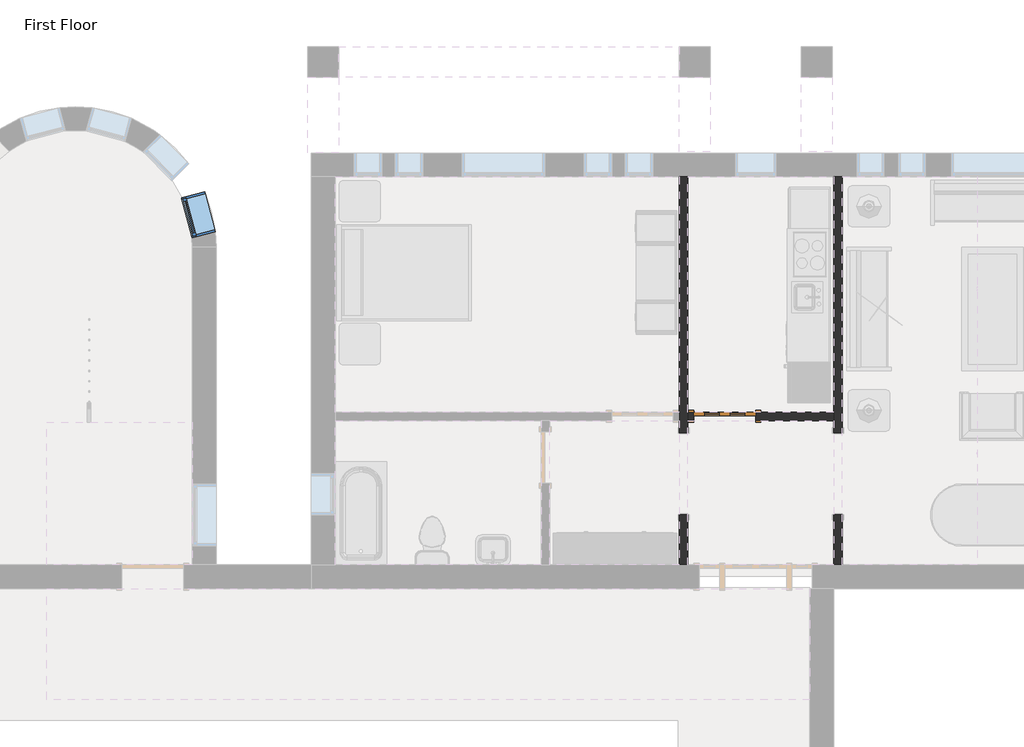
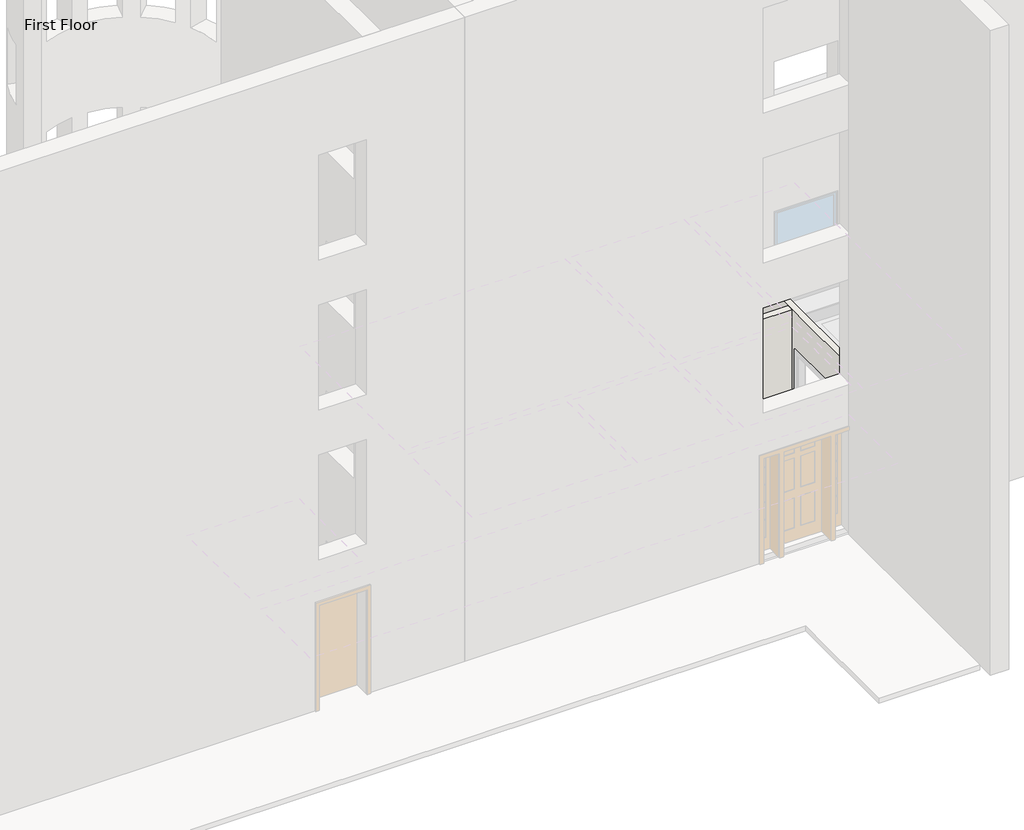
# One storey, part 16 of 23: 3 walls, 1 door, 1 window.
"""IFC4 building model written with IfcOpenShell, lengths in millimetres."""

import ifcopenshell
import ifcopenshell.guid

model = None  # the IFC model being written
_history = None  # IfcOwnerHistory: only IFC2X3 demands one
_inside = {}  # id of a spatial element -> (the spatial element, [elements in it])
_under = {}  # id of a project, library or spatial element -> (it, [spatial elements below it])
_declared = {}  # id of a project -> (the project, [libraries it declares])
_typed = {}  # id of a type object -> (the type object, [elements of that type])
_made_of = {}  # id of a material, layer set ... -> (it, [elements and type objects made of it])


def new_model(schema):
    """Start an empty IFC model of exactly this schema.

    Asked for "IFC4X3", IfcOpenShell would pick the latest addendum, in which some entities
    have other attributes; the version numbers below select the first issue.
    IFC2X3 requires an IfcOwnerHistory on every rooted entity: one is made here for all.
    """
    global model, _history
    if schema == "IFC4X3":
        model = ifcopenshell.file(schema_version=(4, 3, 0, 0))
    else:
        model = ifcopenshell.file(schema=schema)
    _inside.clear()
    _under.clear()
    _declared.clear()
    _typed.clear()
    _made_of.clear()
    _history = None
    if model.schema == "IFC2X3":
        org = make("IfcOrganization", Name="unknown")
        user = make(
            "IfcPersonAndOrganization",
            ThePerson=make("IfcPerson", FamilyName="unknown"),
            TheOrganization=org,
        )
        app = make(
            "IfcApplication",
            ApplicationDeveloper=org,
            Version="unknown",
            ApplicationFullName="unknown",
            ApplicationIdentifier="unknown",
        )
        _history = make(
            "IfcOwnerHistory",
            OwningUser=user,
            OwningApplication=app,
            ChangeAction="ADDED",
            CreationDate=0,
        )
    return model


def make(cls, **values):
    """One entity of the class cls with the attributes given. An attribute that is None is left unset."""
    return model.create_entity(
        cls, **{name: value for name, value in values.items() if value is not None}
    )


def rooted(cls, **values):
    """An entity with a GlobalId (a new one), such as an element, a storey or a relation."""
    return make(cls, GlobalId=ifcopenshell.guid.new(), OwnerHistory=_history, **values)


def si_unit(unit_type, name, prefix=None):
    """IfcSIUnit, for example si_unit("LENGTHUNIT", "METRE", prefix="MILLI")."""
    return make("IfcSIUnit", UnitType=unit_type, Prefix=prefix, Name=name)


def assignment(units):
    """IfcUnitAssignment: the units of a project."""
    return None if units is None else make("IfcUnitAssignment", Units=units)


def point(xyz):
    """IfcCartesianPoint."""
    return None if xyz is None else make("IfcCartesianPoint", Coordinates=xyz)


def direction(xyz):
    """IfcDirection."""
    return None if xyz is None else make("IfcDirection", DirectionRatios=xyz)


def frame(location, z_axis=None, x_axis=None):
    """IfcAxis2Placement3D, a coordinate frame: its origin and axes. An axis left out is left unset."""
    return make(
        "IfcAxis2Placement3D",
        Location=point(location),
        Axis=direction(z_axis),
        RefDirection=direction(x_axis),
    )


def frame_2d(location, x_axis=None):
    """IfcAxis2Placement2D, a coordinate frame in the plane: its origin and x axis."""
    return make(
        "IfcAxis2Placement2D", Location=point(location), RefDirection=direction(x_axis)
    )


def origin():
    """The frame at (0, 0, 0) with its axes left unset."""
    return frame((0.0, 0.0, 0.0))


def place(relative_to, where):
    """IfcLocalPlacement: puts the frame where relative to a parent placement (None: the world)."""
    return make(
        "IfcLocalPlacement", PlacementRelTo=relative_to, RelativePlacement=where
    )


def context(
    kind, dimensions, precision=None, world=None, true_north=None, identifier=None
):
    """IfcGeometricRepresentationContext, for example the 3D "Model" context."""
    return make(
        "IfcGeometricRepresentationContext",
        ContextIdentifier=identifier,
        ContextType=kind,
        CoordinateSpaceDimension=dimensions,
        Precision=precision,
        WorldCoordinateSystem=world,
        TrueNorth=true_north,
    )


def project(units=None, contexts=None):
    """IfcProject with its units and contexts."""
    return rooted(
        "IfcProject",
        Name="project",
        RepresentationContexts=contexts,
        UnitsInContext=assignment(units),
    )


def spatial(cls, under=None, at=None, **own):
    """A site, building, storey or space (cls), placed at a placement, below another one or the project."""
    s = rooted(cls, ObjectPlacement=at, **own)
    if under is not None:
        _under.setdefault(under.id(), (under, []))[1].append(s)
    return s


def polyline(points):
    """IfcPolyline through the points."""
    return make("IfcPolyline", Points=[point(p) for p in points])


def circle_curve(where, radius):
    """IfcCircle in the frame where."""
    return make("IfcCircle", Position=where, Radius=radius)


def trimmed(basis, trim1, trim2, sense, master):
    """IfcTrimmedCurve: the piece of a basis curve between two trims."""
    return make(
        "IfcTrimmedCurve",
        BasisCurve=basis,
        Trim1=trim1,
        Trim2=trim2,
        SenseAgreement=sense,
        MasterRepresentation=master,
    )


def segment(curve, same_sense, transition):
    """IfcCompositeCurveSegment."""
    return make(
        "IfcCompositeCurveSegment",
        Transition=transition,
        SameSense=same_sense,
        ParentCurve=curve,
    )


def composite_curve(segments, self_intersect=None):
    """IfcCompositeCurve: segments joined end to end."""
    return make("IfcCompositeCurve", Segments=segments, SelfIntersect=self_intersect)


def outline(outer, holes=None, kind="AREA"):
    """IfcArbitraryClosedProfileDef: a profile drawn as a closed curve; with holes, ...WithVoids."""
    if holes is None:
        return make("IfcArbitraryClosedProfileDef", ProfileType=kind, OuterCurve=outer)
    return make(
        "IfcArbitraryProfileDefWithVoids",
        ProfileType=kind,
        OuterCurve=outer,
        InnerCurves=holes,
    )


def extrude(swept, where, along, depth):
    """IfcExtrudedAreaSolid: the profile swept, set in the frame where, extruded along a direction by depth."""
    return make(
        "IfcExtrudedAreaSolid",
        SweptArea=swept,
        Position=where,
        ExtrudedDirection=direction(along),
        Depth=depth,
    )


def faces_of(points, faces, orient=None, outer=None):
    """IfcFace entities. A face is a list of loops; a loop is a list of indices into points, from 0.

    orient and outer hold one flag for each loop. By default every Orientation is true, the
    first loop of a face is its IfcFaceOuterBound and the others are IfcFaceBound.
    """
    made = []
    for i, loops in enumerate(faces):
        bounds = []
        for j, loop in enumerate(loops):
            is_outer = j == 0 if outer is None else outer[i][j]
            bounds.append(
                make(
                    "IfcFaceOuterBound" if is_outer else "IfcFaceBound",
                    Bound=make("IfcPolyLoop", Polygon=[points[k] for k in loop]),
                    Orientation=True if orient is None else orient[i][j],
                )
            )
        made.append(make("IfcFace", Bounds=bounds))
    return made


def faceted_brep(points, faces, orient=None, outer=None, voids=None):
    """IfcFacetedBrep: a solid bounded by flat faces; with voids (closed shells), ...WithVoids."""
    shared = [point(p) for p in points]
    hull = make("IfcClosedShell", CfsFaces=faces_of(shared, faces, orient, outer))
    if voids is None:
        return make("IfcFacetedBrep", Outer=hull)
    return make(
        "IfcFacetedBrepWithVoids",
        Outer=hull,
        Voids=[
            make(cls, CfsFaces=faces_of(shared, fs, o, b)) for cls, fs, o, b in voids
        ],
    )


def shape(context_of_items, identifier, shape_type, items):
    """IfcShapeRepresentation: the items that make up one representation, for example the "Body"."""
    return make(
        "IfcShapeRepresentation",
        ContextOfItems=context_of_items,
        RepresentationIdentifier=identifier,
        RepresentationType=shape_type,
        Items=items,
    )


def source(mapping_origin, context_of_items, identifier, shape_type, items):
    """IfcRepresentationMap: a shape defined once, which mapped items show again and again."""
    return make(
        "IfcRepresentationMap",
        MappingOrigin=mapping_origin,
        MappedRepresentation=shape(context_of_items, identifier, shape_type, items),
    )


def transform(
    local_origin,
    x_axis=None,
    y_axis=None,
    z_axis=None,
    scale=None,
    scale2=None,
    scale3=None,
    uniform=True,
):
    """IfcCartesianTransformationOperator3D, or its non-uniform kind. x_axis, y_axis, z_axis: its Axis1, 2, 3."""
    if uniform:
        return make(
            "IfcCartesianTransformationOperator3D",
            Axis1=direction(x_axis),
            Axis2=direction(y_axis),
            LocalOrigin=point(local_origin),
            Scale=scale,
            Axis3=direction(z_axis),
        )
    return make(
        "IfcCartesianTransformationOperator3DnonUniform",
        Axis1=direction(x_axis),
        Axis2=direction(y_axis),
        LocalOrigin=point(local_origin),
        Scale=scale,
        Axis3=direction(z_axis),
        Scale2=scale2,
        Scale3=scale3,
    )


def mapped(mapping_source, mapping_target):
    """IfcMappedItem: shows the shape of a source again, moved by a transform."""
    return make(
        "IfcMappedItem", MappingSource=mapping_source, MappingTarget=mapping_target
    )


def made_of(thing, what):
    """Note that an element or type object is made of a material, layer set ...; save() writes the relation."""
    if what is not None:
        _made_of.setdefault(what.id(), (what, []))[1].append(thing)
    return thing


def element(
    cls,
    number,
    at=None,
    inside=None,
    cuts=None,
    type_object=None,
    material=None,
    context=None,
    identifier="Body",
    shape_type=None,
    held_by="IfcProductDefinitionShape",
    body=None,
    shapes=None,
    **own,
):
    """One element of the class cls, such as IfcWall. Its Tag is "e" and its number.

    at: its placement. inside: the storey or other place that contains it. cuts: it is an
    opening in that element (IfcRelVoidsElement). A single representation is given by context,
    identifier, shape_type and body (its items); several are given by shapes. held_by: the class
    of the entity that holds the representations. save() writes the other relations.
    """
    e = rooted(cls, Tag="e%d" % number, ObjectPlacement=at, **own)
    if body is not None:
        shapes = [shape(context, identifier, shape_type, body)]
    if shapes is not None:
        e.Representation = make(held_by, Representations=shapes)
    if inside is not None:
        _inside.setdefault(inside.id(), (inside, []))[1].append(e)
    if cuts is not None:
        rooted(
            "IfcRelVoidsElement", RelatingBuildingElement=cuts, RelatedOpeningElement=e
        )
    if type_object is not None:
        _typed.setdefault(type_object.id(), (type_object, []))[1].append(e)
    return made_of(e, material)


def aggregate(whole, parts):
    """IfcRelAggregates: a whole, such as a stair, and the parts it consists of."""
    return rooted("IfcRelAggregates", RelatingObject=whole, RelatedObjects=parts)


def save(model, path):
    """Write the relations noted so far, then the file.

    IfcRelAggregates (storeys below a building ...), IfcRelContainedInSpatialStructure (elements
    in a storey), IfcRelDefinesByType, IfcRelAssociatesMaterial and IfcRelDeclares: one each for
    every whole, place, type object, material and project.
    """
    for whole, parts in _under.values():
        aggregate(whole, parts)
    for where, things in _inside.values():
        rooted(
            "IfcRelContainedInSpatialStructure",
            RelatedElements=things,
            RelatingStructure=where,
        )
    for kind, things in _typed.values():
        rooted("IfcRelDefinesByType", RelatedObjects=things, RelatingType=kind)
    for what, things in _made_of.values():
        rooted("IfcRelAssociatesMaterial", RelatedObjects=things, RelatingMaterial=what)
    for by, libraries in _declared.values():
        rooted("IfcRelDeclares", RelatingContext=by, RelatedDefinitions=libraries)
    model.write(path)


def door_829da954(model_context):
    return source(origin(), model_context, "Body", "SweptSolid", [
        extrude(outline(polyline([(0.0, -457.2), (0.0, 457.2), (2133.6, 457.2), (2133.6, -457.2), (0.0, -457.2)]), holes=[polyline([(254.0, -76.2), (254.0, -304.8), (1219.2, -304.8), (1219.2, -76.2), (254.0, -76.2)]), polyline([(254.0, 304.8), (254.0, 76.2), (1219.2, 76.2), (1219.2, 304.8), (254.0, 304.8)]), polyline([(1371.6, 76.2), (1574.8, 76.2), (1574.8, 304.8), (1371.6, 304.8), (1371.6, 76.2)]), polyline([(1371.6, -304.8), (1574.8, -304.8), (1574.8, -76.2), (1371.6, -76.2), (1371.6, -304.8)]), composite_curve([segment(polyline([(1727.2, 304.8), (1727.2, -304.8)]), True, "CONTINUOUS"), segment(trimmed(circle_curve(frame_2d((1727.2, 0.0)), 304.8), [point((1727.2, -304.8))], [point((1727.2, 304.8))], True, "CARTESIAN"), True, "CONTINUOUS")], self_intersect=False)]), frame((0.0, -63.5, 0.0), z_axis=(0.0, 1.0, 0.0), x_axis=(0.0, 0.0, 1.0)), (0.0, 0.0, 1.0), 50.8),
        extrude(outline(polyline([(0.0, 457.2), (0.0, 533.4), (2209.8, 533.4), (2209.8, -533.4), (0.0, -533.4), (0.0, -457.2), (2133.6, -457.2), (2133.6, 457.2), (0.0, 457.2)])), frame((0.0, 63.5, 0.0), z_axis=(0.0, 1.0, 0.0), x_axis=(0.0, 0.0, 1.0)), (0.0, 0.0, 1.0), 25.4),
        extrude(outline(polyline([(2209.8, -533.4), (0.0, -533.4), (0.0, -457.2), (2133.6, -457.2), (2133.6, 457.2), (0.0, 457.2), (0.0, 533.4), (2209.8, 533.4), (2209.8, -533.4)])), frame((0.0, -88.9, 0.0), z_axis=(0.0, 1.0, 0.0), x_axis=(0.0, 0.0, 1.0)), (0.0, 0.0, 1.0), 25.4),
        extrude(outline(composite_curve([segment(polyline([(1727.2, -304.8), (1727.2, 304.8)]), True, "CONTINUOUS"), segment(trimmed(circle_curve(frame_2d((1727.2, 0.0)), 304.8), [point((1727.2, 304.8))], [point((1727.2, -304.8))], False, "CARTESIAN"), True, "CONTINUOUS")], self_intersect=False)), frame((0.0, -46.5666667, 0.0), z_axis=(0.0, 1.0, 0.0), x_axis=(0.0, 0.0, 1.0)), (0.0, 0.0, 1.0), 16.9333333),
        extrude(outline(polyline([(-304.8, -46.5666667), (-304.8, -29.6333333), (-76.2, -29.6333333), (-76.2, -46.5666667), (-304.8, -46.5666667)])), frame((0.0, 0.0, 254.0), z_axis=(0.0, 0.0, 1.0), x_axis=(1.0, 0.0, 0.0)), (0.0, 0.0, 1.0), 965.2),
        extrude(outline(polyline([(76.2, -46.5666667), (76.2, -29.6333333), (304.8, -29.6333333), (304.8, -46.5666667), (76.2, -46.5666667)])), frame((0.0, 0.0, 254.0), z_axis=(0.0, 0.0, 1.0), x_axis=(1.0, 0.0, 0.0)), (0.0, 0.0, 1.0), 965.2),
        extrude(outline(polyline([(76.2, -46.5666667), (76.2, -29.6333333), (304.8, -29.6333333), (304.8, -46.5666667), (76.2, -46.5666667)])), frame((0.0, 0.0, 1371.6), z_axis=(0.0, 0.0, 1.0), x_axis=(1.0, 0.0, 0.0)), (0.0, 0.0, 1.0), 203.2),
        extrude(outline(polyline([(-304.8, -46.5666667), (-304.8, -29.6333333), (-76.2, -29.6333333), (-76.2, -46.5666667), (-304.8, -46.5666667)])), frame((0.0, 0.0, 1371.6), z_axis=(0.0, 0.0, 1.0), x_axis=(1.0, 0.0, 0.0)), (0.0, 0.0, 1.0), 203.2),
    ])


def window_60baf983(model_context):
    return source(origin(), model_context, "Body", "SweptSolid", [
        extrude(outline(polyline([(203.2, 128.5875), (-279.4, 128.5875), (-279.4, 141.2875), (203.2, 141.2875), (203.2, 128.5875)])), frame((0.0, 0.0, 977.9), z_axis=(0.0, 0.0, 1.0), x_axis=(1.0, 0.0, 0.0)), (0.0, 0.0, 1.0), 1092.2),
        extrude(outline(polyline([(2114.55, -323.85), (933.45, -323.85), (933.45, 247.65), (2114.55, 247.65), (2114.55, -323.85)]), holes=[polyline([(2070.1, -279.4), (2070.1, 203.2), (977.9, 203.2), (977.9, -279.4), (2070.1, -279.4)])]), frame((0.0, 112.7125, 0.0), z_axis=(0.0, 1.0, 0.0), x_axis=(0.0, 0.0, 1.0)), (0.0, 0.0, 1.0), 44.45),
        extrude(outline(polyline([(2133.6, -342.9), (914.4, -342.9), (914.4, 266.7), (2133.6, 266.7), (2133.6, -342.9)]), holes=[polyline([(2101.85, -311.15), (2101.85, 234.95), (946.15, 234.95), (946.15, -311.15), (2101.85, -311.15)])]), frame((0.0, -176.2125, 0.0), z_axis=(0.0, 1.0, 0.0), x_axis=(0.0, 0.0, 1.0)), (0.0, 0.0, 1.0), 288.925),
        extrude(outline(polyline([(2133.6, 266.7), (2133.6, -342.9), (914.4, -342.9), (914.4, 266.7), (2133.6, 266.7)]), holes=[polyline([(2114.55, 247.65), (933.45, 247.65), (933.45, -323.85), (2114.55, -323.85), (2114.55, 247.65)])]), frame((0.0, 112.7125, 0.0), z_axis=(0.0, 1.0, 0.0), x_axis=(0.0, 0.0, 1.0)), (0.0, 0.0, 1.0), 63.5),
    ])


model = new_model("IFC4")

# Units and contexts
model_context = context("Model", 3, world=origin())
ifc_project = project(units=[si_unit("LENGTHUNIT", "METRE", prefix="MILLI")], contexts=[model_context])

# Site, building, storey
site = spatial("IfcSite", under=ifc_project)
building = spatial("IfcBuilding", under=site)
storey = spatial("IfcBuildingStorey", under=building, Name="First Floor", Elevation=0.0)

# Door
placement = place(None, origin())
door_shape = door_829da954(model_context)
element("IfcDoor", 1, ObjectType="Single-Decorative 2 : 36\" x 84\"", at=placement, inside=storey, context=model_context, shape_type="MappedRepresentation", body=[
    mapped(door_shape, transform((-5449.8589563, 6723.5441867, 0.0), x_axis=(-1.0, 0.0, 0.0), y_axis=(0.0, -1.0, 0.0), z_axis=(0.0, 0.0, 1.0))),
])

# Walls
element("IfcWall", 2, ObjectType="Interior - 5\" Partition (2-hr)", at=placement, inside=storey, context=model_context, shape_type="Brep", body=[
    faceted_brep([(-3836.9589563, 10270.0191867, 0.0), (-3836.9589563, 6787.0441867, 0.0), (-3836.9589563, 6660.0441867, 0.0), (-3836.9589563, 6483.8316867, 0.0), (-3836.9589563, 6483.8316867, 2133.6), (-3836.9589563, 5264.6316867, 2133.6), (-3836.9589563, 5264.6316867, 0.0), (-3836.9589563, 4526.4441867, 0.0), (-3836.9589563, 4526.4441867, 2943.225), (-3836.9589563, 6660.0441867, 2943.225), (-3836.9589563, 6787.0441867, 2943.225), (-3836.9589563, 10270.0191867, 2943.225), (-3709.9589563, 6483.8316867, 2133.6), (-3709.9589563, 6483.8316867, 0.0), (-3709.9589563, 10270.0191867, 0.0), (-3709.9589563, 10270.0191867, 2943.225), (-3709.9589563, 4526.4441867, 2943.225), (-3709.9589563, 4526.4441867, 0.0), (-3709.9589563, 5264.6316867, 0.0), (-3709.9589563, 5264.6316867, 2133.6)], [[[0, 1, 2, 3, 4, 5, 6, 7, 8, 9, 10, 11]], [[12, 13, 14, 15, 16, 17, 18, 19]], [[14, 13, 3, 2, 1, 0]], [[18, 17, 7, 6]], [[11, 10, 9, 8, 16, 15]], [[0, 11, 15, 14]], [[8, 7, 17, 16]], [[6, 5, 19, 18]], [[4, 3, 13, 12]], [[5, 4, 12, 19]]]),
])
element("IfcWall", 3, ObjectType="Interior - 5\" Partition (2-hr)", at=placement, inside=storey, context=model_context, shape_type="Brep", body=[
    faceted_brep([(-6122.9589563, 5264.6316867, 2133.6), (-6122.9589563, 5264.6316867, 0.0), (-6122.9589563, 4526.4441867, 0.0), (-6122.9589563, 4526.4441867, 2943.225), (-6122.9589563, 6660.0441867, 2943.225), (-6122.9589563, 6787.0441867, 2943.225), (-6122.9589563, 10270.0191867, 2943.225), (-6122.9589563, 10270.0191867, 0.0), (-6122.9589563, 6787.0441867, 0.0), (-6122.9589563, 6660.0441867, 0.0), (-6122.9589563, 6483.8316867, 0.0), (-6122.9589563, 6483.8316867, 2133.6), (-5995.9589563, 4526.4441867, 0.0), (-5995.9589563, 5264.6316867, 0.0), (-5995.9589563, 5264.6316867, 2133.6), (-5995.9589563, 6483.8316867, 2133.6), (-5995.9589563, 6483.8316867, 0.0), (-5995.9589563, 6660.0441867, 0.0), (-5995.9589563, 6787.0441867, 0.0), (-5995.9589563, 10270.0191867, 0.0), (-5995.9589563, 10270.0191867, 2943.225), (-5995.9589563, 6787.0441867, 2943.225), (-5995.9589563, 6660.0441867, 2943.225), (-5995.9589563, 4526.4441867, 2943.225)], [[[0, 1, 2, 3, 4, 5, 6, 7, 8, 9, 10, 11]], [[12, 13, 14, 15, 16, 17, 18, 19, 20, 21, 22, 23]], [[2, 1, 13, 12]], [[10, 9, 8, 7, 19, 18, 17, 16]], [[6, 5, 4, 3, 23, 22, 21, 20]], [[7, 6, 20, 19]], [[3, 2, 12, 23]], [[16, 15, 11, 10]], [[14, 13, 1, 0]], [[15, 14, 0, 11]]]),
])
element("IfcWall", 4, ObjectType="Interior - 5\" Partition (2-hr)", at=placement, inside=storey, context=model_context, shape_type="SweptSolid", body=[
    extrude(outline(polyline([(0.0, -5995.9589563), (0.0, -5907.0589563), (2133.6, -5907.0589563), (2133.6, -4992.6589563), (0.0, -4992.6589563), (0.0, -3836.9589563), (2943.225, -3836.9589563), (2943.225, -5995.9589563), (0.0, -5995.9589563)])), frame((0.0, 6660.0441867, 0.0), z_axis=(0.0, 1.0, 0.0), x_axis=(0.0, 0.0, 1.0)), (0.0, 0.0, 1.0), 127.0),
])

# Window
window_shape = window_60baf983(model_context)
element("IfcWindow", 5, ObjectType="Fixed : 24\" x 48\"", at=placement, inside=storey, context=model_context, shape_type="MappedRepresentation", body=[
    mapped(window_shape, transform((-13252.0309309, 9745.5617412, 0.0), x_axis=(-0.25587418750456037, 0.9667100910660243, 0.0), y_axis=(-0.9667100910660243, -0.25587418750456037, 0.0), z_axis=(0.0, 0.0, 1.0))),
])

save(model, "model.ifc")
